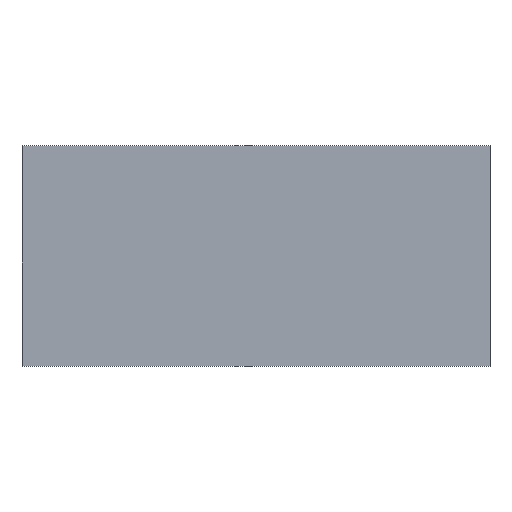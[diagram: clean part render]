
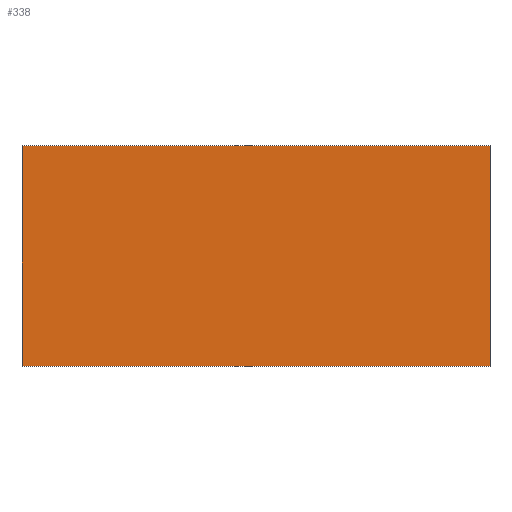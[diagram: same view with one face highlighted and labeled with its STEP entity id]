
A CAD part, top view. The second image highlights one B-rep face of the part: STEP entity #338.
In plain terms, the highlighted planar face has unit normal (0, 0, 1).
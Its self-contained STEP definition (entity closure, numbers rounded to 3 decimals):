
#24 = VERTEX_POINT('',#25);
#25 = CARTESIAN_POINT('',(-850.,-400.,30.));
#32 = PLANE('',#33);
#33 = AXIS2_PLACEMENT_3D('',#34,#35,#36);
#34 = CARTESIAN_POINT('',(-850.,-400.,0.));
#35 = DIRECTION('',(0.,1.,0.));
#36 = DIRECTION('',(1.,0.,0.));
#44 = PLANE('',#45);
#45 = AXIS2_PLACEMENT_3D('',#46,#47,#48);
#46 = CARTESIAN_POINT('',(-850.,400.,0.));
#47 = DIRECTION('',(1.,0.,-0.));
#48 = DIRECTION('',(0.,-1.,0.));
#56 = EDGE_CURVE('',#24,#57,#59,.T.);
#57 = VERTEX_POINT('',#58);
#58 = CARTESIAN_POINT('',(850.,-400.,30.));
#59 = SURFACE_CURVE('',#60,(#64,#71),.PCURVE_S1.);
#60 = LINE('',#61,#62);
#61 = CARTESIAN_POINT('',(-850.,-400.,30.));
#62 = VECTOR('',#63,1.);
#63 = DIRECTION('',(1.,0.,0.));
#64 = PCURVE('',#32,#65);
#65 = DEFINITIONAL_REPRESENTATION('',(#66),#70);
#66 = LINE('',#67,#68);
#67 = CARTESIAN_POINT('',(0.,-30.));
#68 = VECTOR('',#69,1.);
#69 = DIRECTION('',(1.,0.));
#70 = ( GEOMETRIC_REPRESENTATION_CONTEXT(2) 
PARAMETRIC_REPRESENTATION_CONTEXT() REPRESENTATION_CONTEXT('2D SPACE',''
  ) );
#71 = PCURVE('',#72,#77);
#72 = PLANE('',#73);
#73 = AXIS2_PLACEMENT_3D('',#74,#75,#76);
#74 = CARTESIAN_POINT('',(0.,0.,30.));
#75 = DIRECTION('',(0.,0.,1.));
#76 = DIRECTION('',(1.,0.,-0.));
#77 = DEFINITIONAL_REPRESENTATION('',(#78),#82);
#78 = LINE('',#79,#80);
#79 = CARTESIAN_POINT('',(-850.,-400.));
#80 = VECTOR('',#81,1.);
#81 = DIRECTION('',(1.,0.));
#82 = ( GEOMETRIC_REPRESENTATION_CONTEXT(2) 
PARAMETRIC_REPRESENTATION_CONTEXT() REPRESENTATION_CONTEXT('2D SPACE',''
  ) );
#100 = PLANE('',#101);
#101 = AXIS2_PLACEMENT_3D('',#102,#103,#104);
#102 = CARTESIAN_POINT('',(850.,-400.,0.));
#103 = DIRECTION('',(-1.,0.,0.));
#104 = DIRECTION('',(0.,1.,0.));
#142 = EDGE_CURVE('',#57,#143,#145,.T.);
#143 = VERTEX_POINT('',#144);
#144 = CARTESIAN_POINT('',(850.,400.,30.));
#145 = SURFACE_CURVE('',#146,(#150,#157),.PCURVE_S1.);
#146 = LINE('',#147,#148);
#147 = CARTESIAN_POINT('',(850.,-400.,30.));
#148 = VECTOR('',#149,1.);
#149 = DIRECTION('',(0.,1.,0.));
#150 = PCURVE('',#100,#151);
#151 = DEFINITIONAL_REPRESENTATION('',(#152),#156);
#152 = LINE('',#153,#154);
#153 = CARTESIAN_POINT('',(0.,-30.));
#154 = VECTOR('',#155,1.);
#155 = DIRECTION('',(1.,0.));
#156 = ( GEOMETRIC_REPRESENTATION_CONTEXT(2) 
PARAMETRIC_REPRESENTATION_CONTEXT() REPRESENTATION_CONTEXT('2D SPACE',''
  ) );
#157 = PCURVE('',#72,#158);
#158 = DEFINITIONAL_REPRESENTATION('',(#159),#163);
#159 = LINE('',#160,#161);
#160 = CARTESIAN_POINT('',(850.,-400.));
#161 = VECTOR('',#162,1.);
#162 = DIRECTION('',(0.,1.));
#163 = ( GEOMETRIC_REPRESENTATION_CONTEXT(2) 
PARAMETRIC_REPRESENTATION_CONTEXT() REPRESENTATION_CONTEXT('2D SPACE',''
  ) );
#181 = PLANE('',#182);
#182 = AXIS2_PLACEMENT_3D('',#183,#184,#185);
#183 = CARTESIAN_POINT('',(850.,400.,0.));
#184 = DIRECTION('',(0.,-1.,0.));
#185 = DIRECTION('',(-1.,0.,0.));
#218 = EDGE_CURVE('',#143,#219,#221,.T.);
#219 = VERTEX_POINT('',#220);
#220 = CARTESIAN_POINT('',(-850.,400.,30.));
#221 = SURFACE_CURVE('',#222,(#226,#233),.PCURVE_S1.);
#222 = LINE('',#223,#224);
#223 = CARTESIAN_POINT('',(850.,400.,30.));
#224 = VECTOR('',#225,1.);
#225 = DIRECTION('',(-1.,0.,0.));
#226 = PCURVE('',#181,#227);
#227 = DEFINITIONAL_REPRESENTATION('',(#228),#232);
#228 = LINE('',#229,#230);
#229 = CARTESIAN_POINT('',(0.,-30.));
#230 = VECTOR('',#231,1.);
#231 = DIRECTION('',(1.,0.));
#232 = ( GEOMETRIC_REPRESENTATION_CONTEXT(2) 
PARAMETRIC_REPRESENTATION_CONTEXT() REPRESENTATION_CONTEXT('2D SPACE',''
  ) );
#233 = PCURVE('',#72,#234);
#234 = DEFINITIONAL_REPRESENTATION('',(#235),#239);
#235 = LINE('',#236,#237);
#236 = CARTESIAN_POINT('',(850.,400.));
#237 = VECTOR('',#238,1.);
#238 = DIRECTION('',(-1.,0.));
#239 = ( GEOMETRIC_REPRESENTATION_CONTEXT(2) 
PARAMETRIC_REPRESENTATION_CONTEXT() REPRESENTATION_CONTEXT('2D SPACE',''
  ) );
#289 = EDGE_CURVE('',#219,#24,#290,.T.);
#290 = SURFACE_CURVE('',#291,(#295,#302),.PCURVE_S1.);
#291 = LINE('',#292,#293);
#292 = CARTESIAN_POINT('',(-850.,400.,30.));
#293 = VECTOR('',#294,1.);
#294 = DIRECTION('',(0.,-1.,0.));
#295 = PCURVE('',#44,#296);
#296 = DEFINITIONAL_REPRESENTATION('',(#297),#301);
#297 = LINE('',#298,#299);
#298 = CARTESIAN_POINT('',(0.,-30.));
#299 = VECTOR('',#300,1.);
#300 = DIRECTION('',(1.,0.));
#301 = ( GEOMETRIC_REPRESENTATION_CONTEXT(2) 
PARAMETRIC_REPRESENTATION_CONTEXT() REPRESENTATION_CONTEXT('2D SPACE',''
  ) );
#302 = PCURVE('',#72,#303);
#303 = DEFINITIONAL_REPRESENTATION('',(#304),#308);
#304 = LINE('',#305,#306);
#305 = CARTESIAN_POINT('',(-850.,400.));
#306 = VECTOR('',#307,1.);
#307 = DIRECTION('',(0.,-1.));
#308 = ( GEOMETRIC_REPRESENTATION_CONTEXT(2) 
PARAMETRIC_REPRESENTATION_CONTEXT() REPRESENTATION_CONTEXT('2D SPACE',''
  ) );
#338 = ADVANCED_FACE('',(#339),#72,.T.);
#339 = FACE_BOUND('',#340,.T.);
#340 = EDGE_LOOP('',(#341,#342,#343,#344));
#341 = ORIENTED_EDGE('',*,*,#56,.T.);
#342 = ORIENTED_EDGE('',*,*,#142,.T.);
#343 = ORIENTED_EDGE('',*,*,#218,.T.);
#344 = ORIENTED_EDGE('',*,*,#289,.T.);
